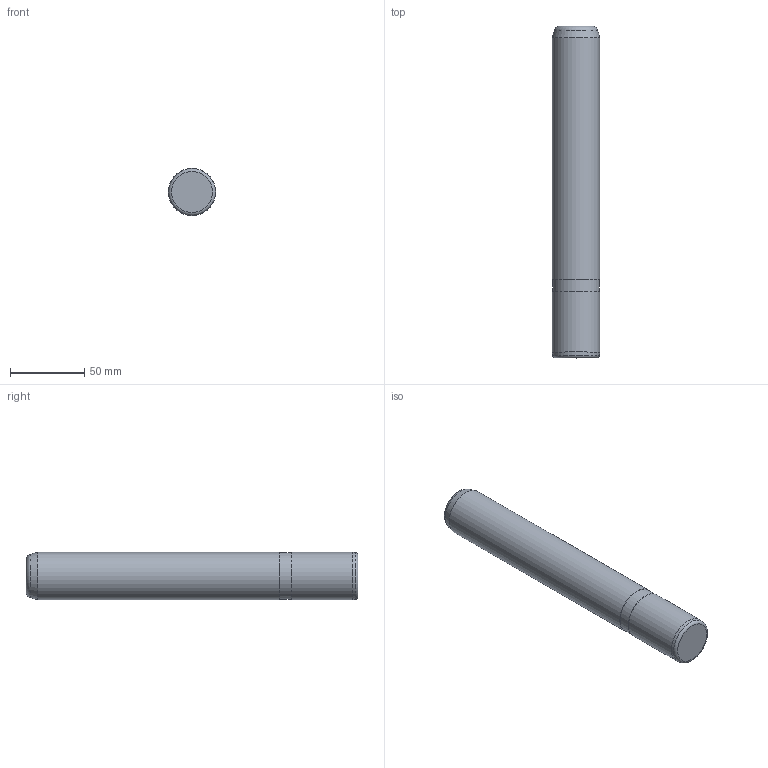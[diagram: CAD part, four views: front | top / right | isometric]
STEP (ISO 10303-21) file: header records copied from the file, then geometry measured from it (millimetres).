
FILE_DESCRIPTION( ( 'STEP AP203' ), '1' );
FILE_NAME( 'D:/Cuma/26 04 2010/D15/D15_32224.step', '2003-02-25T14:52:56', ( ' ' ), ( ' ' ), 'XStep 1.0', ' ', ' ' );
FILE_SCHEMA( ( 'CONFIG_CONTROL_DESIGN' ) );
Length unit declared in the file: metre
Products named in the file (1): 1
Bounding box: 32 x 224 x 32 mm (x, y, z)
Volume: 178840 mm3; surface area: 23745.2 mm2
Topology: 1 solids, 1 shells, 11 faces, 17 edges, 10 vertices
Faces by surface type: plane 4, cylinder 3, torus 2, cone 2
Full cylindrical faces by diameter (mm): 31.5 x1, 32 x2
Entity records: 259 total; most frequent: DIRECTION 44, CARTESIAN_POINT 32, AXIS2_PLACEMENT_3D 22, EDGE_LOOP 20, ORIENTED_EDGE 20, FACE_OUTER_BOUND 16, ADVANCED_FACE 11, EDGE_CURVE 10
